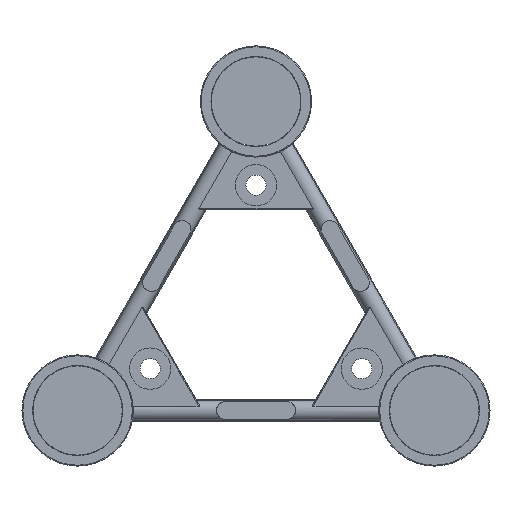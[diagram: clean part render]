
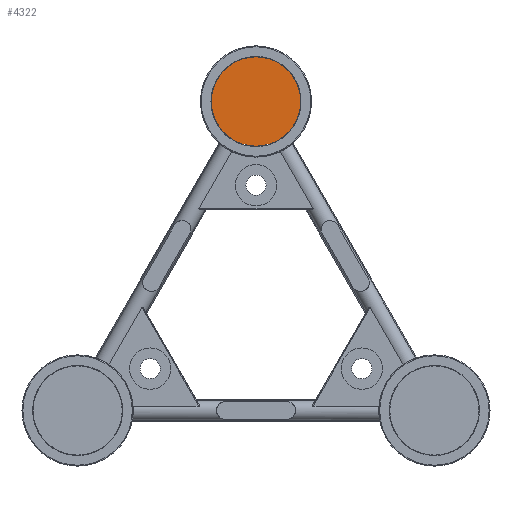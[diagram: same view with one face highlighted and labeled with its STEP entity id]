
A CAD part, left-side view. The second image highlights one B-rep face of the part: STEP entity #4322.
In plain terms, the highlighted planar face has unit normal (-1, 0, 0).
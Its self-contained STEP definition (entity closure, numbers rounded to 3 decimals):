
#41=CIRCLE('',#4631,25.4);
#611=FACE_OUTER_BOUND('',#903,.T.);
#903=EDGE_LOOP('',(#2849));
#1801=VERTEX_POINT('',#6489);
#2215=EDGE_CURVE('',#1801,#1801,#41,.T.);
#2849=ORIENTED_EDGE('',*,*,#2215,.F.);
#3899=PLANE('',#4634);
#4322=ADVANCED_FACE('',(#611),#3899,.T.);
#4631=AXIS2_PLACEMENT_3D('',#6490,#5205,#5206);
#4634=AXIS2_PLACEMENT_3D('',#6493,#5211,#5212);
#5205=DIRECTION('center_axis',(1.,0.,0.));
#5206=DIRECTION('ref_axis',(0.,-1.,0.));
#5211=DIRECTION('center_axis',(-1.,0.,0.));
#5212=DIRECTION('ref_axis',(0.,-1.,0.));
#6489=CARTESIAN_POINT('',(0.,126.9,175.803));
#6490=CARTESIAN_POINT('Origin',(0.,101.5,175.803));
#6493=CARTESIAN_POINT('Origin',(0.,101.5,175.803));
